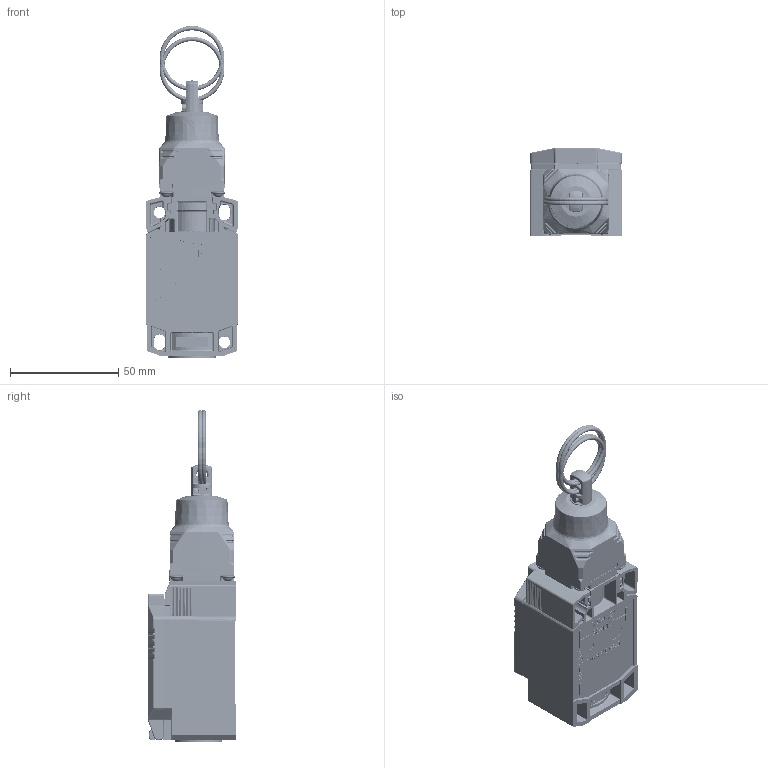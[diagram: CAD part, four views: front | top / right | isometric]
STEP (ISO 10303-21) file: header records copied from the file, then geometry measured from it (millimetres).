
FILE_DESCRIPTION((''),'2;1');
FILE_NAME('IN73_MN78_RP_ASM','2019-12-16T13:29:57',('Michael.Schnitker'),(''),'CREO PARAMETRIC BY PTC INC, 2018190','CREO PARAMETRIC BY PTC INC, 2018190','');
FILE_SCHEMA(('AUTOMOTIVE_DESIGN { 1 0 10303 214 1 1 1 1 }'));
Products named in the file (6): IN73_OB; ZUGAUFS_RP_UNBET; ZUGAUFS_RP_BET; ZUGAUFS_RP_MIT_RING_UNBET; ZUGAUFS_RP_MIT_RING_BET; IN73_MN78_RP_ASM
Assembly tree (5 placements, depth 2):
  IN73_MN78_RP_ASM
    IN73_OB
    ZUGAUFS_RP_UNBET
    ZUGAUFS_RP_BET
    ZUGAUFS_RP_MIT_RING_UNBET
    ZUGAUFS_RP_MIT_RING_BET
Bounding box: 42.51 x 41 x 153.43 mm (x, y, z)
Volume: 125496.6 mm3; surface area: 111226 mm2
Topology: 5 solids, 6 shells, 13879 faces, 33545 edges, 19829 vertices
Faces by surface type: cylinder 4249, bspline 3843, plane 3565, sphere 945, torus 686, cone 588, extrusion 3
Entity records: 795161 total; most frequent: CARTESIAN_POINT 301116, ORIENTED_EDGE 66974, DIRECTION 52012, PRESENTATION_STYLE_ASSIGNMENT 47345, STYLED_ITEM 33816, CURVE_STYLE 33490, EDGE_CURVE 33487, VERTEX_POINT 19829
